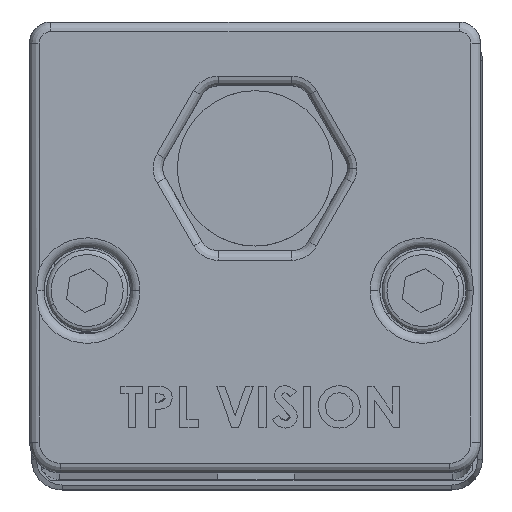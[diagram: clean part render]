
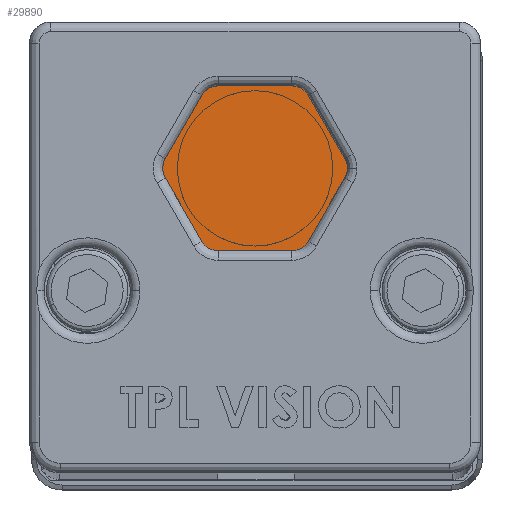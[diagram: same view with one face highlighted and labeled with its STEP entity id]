
A CAD part, top view. The second image highlights one B-rep face of the part: STEP entity #29890.
In plain terms, the highlighted planar face has unit normal (0, 0, 1).
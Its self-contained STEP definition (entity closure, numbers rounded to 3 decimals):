
#1290 = CARTESIAN_POINT ( 'NONE',  ( -0.217, 15.5, 949.5 ) ) ;
#1291 = CARTESIAN_POINT ( 'NONE',  ( 0.051, 14.5, 949.5 ) ) ;
#1292 = DIRECTION ( 'NONE',  ( 1., 0., 0. ) ) ;
#1293 = DIRECTION ( 'NONE',  ( 0., 0., 1. ) ) ;
#1294 = CARTESIAN_POINT ( 'NONE',  ( -1.949, 14.5, 949.5 ) ) ;
#1295 = AXIS2_PLACEMENT_3D ( 'NONE', #1294, #1293, #1292 ) ;
#1300 = CIRCLE ( 'NONE', #1295, 2. ) ;
#14019 = CIRCLE ( 'NONE', #14346, 2. ) ;
#14346 = AXIS2_PLACEMENT_3D ( 'NONE', #14843, #15564, #15562 ) ;
#14843 = CARTESIAN_POINT ( 'NONE',  ( -13.38, 7.9, 949.5 ) ) ;
#14848 = CARTESIAN_POINT ( 'NONE',  ( -15.112, 6.9, 949.5 ) ) ;
#14849 = DIRECTION ( 'NONE',  ( 0.5, -0.866, 0. ) ) ;
#14851 = VECTOR ( 'NONE', #14849, 1000. ) ;
#14853 = CARTESIAN_POINT ( 'NONE',  ( -18.923, 13.5, 949.5 ) ) ;
#14854 = LINE ( 'NONE', #14853, #14851 ) ;
#14858 = CARTESIAN_POINT ( 'NONE',  ( -18.923, 13.5, 949.5 ) ) ;
#14860 = DIRECTION ( 'NONE',  ( 1., 0., 0. ) ) ;
#14861 = DIRECTION ( 'NONE',  ( 0., 0., 1. ) ) ;
#14862 = CARTESIAN_POINT ( 'NONE',  ( -17.191, 14.5, 949.5 ) ) ;
#14864 = AXIS2_PLACEMENT_3D ( 'NONE', #14862, #14861, #14860 ) ;
#14866 = CIRCLE ( 'NONE', #14864, 2. ) ;
#14870 = CARTESIAN_POINT ( 'NONE',  ( -18.923, 15.5, 949.5 ) ) ;
#14872 = DIRECTION ( 'NONE',  ( -0.5, -0.866, 0. ) ) ;
#14873 = VECTOR ( 'NONE', #14872, 1000. ) ;
#14875 = CARTESIAN_POINT ( 'NONE',  ( -15.112, 22.1, 949.5 ) ) ;
#14877 = LINE ( 'NONE', #14875, #14873 ) ;
#14880 = CARTESIAN_POINT ( 'NONE',  ( -15.112, 22.1, 949.5 ) ) ;
#14881 = CARTESIAN_POINT ( 'NONE',  ( -13.38, 23.1, 949.5 ) ) ;
#14883 = DIRECTION ( 'NONE',  ( 1., 0., 0. ) ) ;
#14885 = DIRECTION ( 'NONE',  ( 0., 0., 1. ) ) ;
#14888 = CARTESIAN_POINT ( 'NONE',  ( -13.38, 21.1, 949.5 ) ) ;
#14889 = AXIS2_PLACEMENT_3D ( 'NONE', #14888, #14885, #14883 ) ;
#14890 = CIRCLE ( 'NONE', #14889, 2. ) ;
#14891 = DIRECTION ( 'NONE',  ( 1., 0., 0. ) ) ;
#14892 = DIRECTION ( 'NONE',  ( 0., 0., 1. ) ) ;
#14893 = CARTESIAN_POINT ( 'NONE',  ( -13.38, 21.1, 949.5 ) ) ;
#14894 = AXIS2_PLACEMENT_3D ( 'NONE', #14893, #14892, #14891 ) ;
#14896 = PLANE ( 'NONE',  #14894 ) ;
#14921 = FACE_OUTER_BOUND ( 'NONE', #29891, .T. ) ;
#15440 = CARTESIAN_POINT ( 'NONE',  ( -4.027, 6.9, 949.5 ) ) ;
#15442 = DIRECTION ( 'NONE',  ( 1., 0., 0. ) ) ;
#15443 = DIRECTION ( 'NONE',  ( 0., 0., 1. ) ) ;
#15445 = CARTESIAN_POINT ( 'NONE',  ( -5.759, 7.9, 949.5 ) ) ;
#15447 = AXIS2_PLACEMENT_3D ( 'NONE', #15445, #15443, #15442 ) ;
#15448 = CIRCLE ( 'NONE', #15447, 2. ) ;
#15452 = CARTESIAN_POINT ( 'NONE',  ( -5.759, 5.9, 949.5 ) ) ;
#15453 = DIRECTION ( 'NONE',  ( 1., 0., 0. ) ) ;
#15454 = VECTOR ( 'NONE', #15453, 1000. ) ;
#15455 = CARTESIAN_POINT ( 'NONE',  ( -13.38, 5.9, 949.5 ) ) ;
#15456 = LINE ( 'NONE', #15455, #15454 ) ;
#15560 = CARTESIAN_POINT ( 'NONE',  ( -13.38, 5.9, 949.5 ) ) ;
#15562 = DIRECTION ( 'NONE',  ( 1., 0., 0. ) ) ;
#15564 = DIRECTION ( 'NONE',  ( 0., 0., 1. ) ) ;
#15938 = CARTESIAN_POINT ( 'NONE',  ( -1.949, 14.5, 949.5 ) ) ;
#15940 = CARTESIAN_POINT ( 'NONE',  ( -0.217, 13.5, 949.5 ) ) ;
#15941 = DIRECTION ( 'NONE',  ( 0.5, 0.866, 0. ) ) ;
#15942 = VECTOR ( 'NONE', #15941, 1000. ) ;
#15943 = CARTESIAN_POINT ( 'NONE',  ( -4.027, 6.9, 949.5 ) ) ;
#15944 = LINE ( 'NONE', #15943, #15942 ) ;
#16004 = DIRECTION ( 'NONE',  ( -1., 0., 0. ) ) ;
#16005 = VECTOR ( 'NONE', #16004, 1000. ) ;
#16007 = CARTESIAN_POINT ( 'NONE',  ( -5.759, 23.1, 949.5 ) ) ;
#16008 = LINE ( 'NONE', #16007, #16005 ) ;
#16013 = CARTESIAN_POINT ( 'NONE',  ( -5.759, 23.1, 949.5 ) ) ;
#16015 = DIRECTION ( 'NONE',  ( 1., 0., 0. ) ) ;
#16016 = DIRECTION ( 'NONE',  ( 0., 0., 1. ) ) ;
#16017 = CARTESIAN_POINT ( 'NONE',  ( -5.759, 21.1, 949.5 ) ) ;
#16019 = AXIS2_PLACEMENT_3D ( 'NONE', #16017, #16016, #16015 ) ;
#16021 = CIRCLE ( 'NONE', #16019, 2. ) ;
#16025 = CARTESIAN_POINT ( 'NONE',  ( -4.027, 22.1, 949.5 ) ) ;
#16027 = DIRECTION ( 'NONE',  ( -0.5, 0.866, 0. ) ) ;
#16028 = VECTOR ( 'NONE', #16027, 1000. ) ;
#16030 = CARTESIAN_POINT ( 'NONE',  ( -0.217, 15.5, 949.5 ) ) ;
#16032 = LINE ( 'NONE', #16030, #16028 ) ;
#16035 = DIRECTION ( 'NONE',  ( 1., 0., 0. ) ) ;
#16037 = DIRECTION ( 'NONE',  ( 0., 0., 1. ) ) ;
#16038 = AXIS2_PLACEMENT_3D ( 'NONE', #15938, #16037, #16035 ) ;
#16040 = CIRCLE ( 'NONE', #16038, 2. ) ;
#26475 = EDGE_CURVE ( 'NONE', #26476, #26477, #1300, .T. ) ;
#26476 = VERTEX_POINT ( 'NONE', #1291 ) ;
#26477 = VERTEX_POINT ( 'NONE', #1290 ) ;
#29890 = ADVANCED_FACE ( 'NONE', ( #14921 ), #14896, .T. ) ;
#29891 = EDGE_LOOP ( 'NONE', ( #29892, #29896, #29899, #29902, #29905, #29908, #29911, #29914, #30019, #30021, #30022, #30025, #30028 ) ) ;
#29892 = ORIENTED_EDGE ( 'NONE', *, *, #29893, .T. ) ;
#29893 = EDGE_CURVE ( 'NONE', #29894, #29895, #14890, .T. ) ;
#29894 = VERTEX_POINT ( 'NONE', #14881 ) ;
#29895 = VERTEX_POINT ( 'NONE', #14880 ) ;
#29896 = ORIENTED_EDGE ( 'NONE', *, *, #29897, .T. ) ;
#29897 = EDGE_CURVE ( 'NONE', #29895, #29898, #14877, .T. ) ;
#29898 = VERTEX_POINT ( 'NONE', #14870 ) ;
#29899 = ORIENTED_EDGE ( 'NONE', *, *, #29900, .T. ) ;
#29900 = EDGE_CURVE ( 'NONE', #29898, #29901, #14866, .T. ) ;
#29901 = VERTEX_POINT ( 'NONE', #14858 ) ;
#29902 = ORIENTED_EDGE ( 'NONE', *, *, #29903, .T. ) ;
#29903 = EDGE_CURVE ( 'NONE', #29901, #29904, #14854, .T. ) ;
#29904 = VERTEX_POINT ( 'NONE', #14848 ) ;
#29905 = ORIENTED_EDGE ( 'NONE', *, *, #29906, .T. ) ;
#29906 = EDGE_CURVE ( 'NONE', #29904, #29907, #14019, .T. ) ;
#29907 = VERTEX_POINT ( 'NONE', #15560 ) ;
#29908 = ORIENTED_EDGE ( 'NONE', *, *, #29909, .T. ) ;
#29909 = EDGE_CURVE ( 'NONE', #29907, #29910, #15456, .T. ) ;
#29910 = VERTEX_POINT ( 'NONE', #15452 ) ;
#29911 = ORIENTED_EDGE ( 'NONE', *, *, #29912, .T. ) ;
#29912 = EDGE_CURVE ( 'NONE', #29910, #29913, #15448, .T. ) ;
#29913 = VERTEX_POINT ( 'NONE', #15440 ) ;
#29914 = ORIENTED_EDGE ( 'NONE', *, *, #30017, .T. ) ;
#30017 = EDGE_CURVE ( 'NONE', #29913, #30018, #15944, .T. ) ;
#30018 = VERTEX_POINT ( 'NONE', #15940 ) ;
#30019 = ORIENTED_EDGE ( 'NONE', *, *, #30020, .T. ) ;
#30020 = EDGE_CURVE ( 'NONE', #30018, #26476, #16040, .T. ) ;
#30021 = ORIENTED_EDGE ( 'NONE', *, *, #26475, .T. ) ;
#30022 = ORIENTED_EDGE ( 'NONE', *, *, #30023, .T. ) ;
#30023 = EDGE_CURVE ( 'NONE', #26477, #30024, #16032, .T. ) ;
#30024 = VERTEX_POINT ( 'NONE', #16025 ) ;
#30025 = ORIENTED_EDGE ( 'NONE', *, *, #30026, .T. ) ;
#30026 = EDGE_CURVE ( 'NONE', #30024, #30027, #16021, .T. ) ;
#30027 = VERTEX_POINT ( 'NONE', #16013 ) ;
#30028 = ORIENTED_EDGE ( 'NONE', *, *, #30029, .T. ) ;
#30029 = EDGE_CURVE ( 'NONE', #30027, #29894, #16008, .T. ) ;
